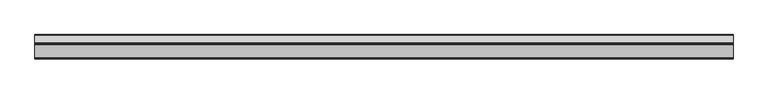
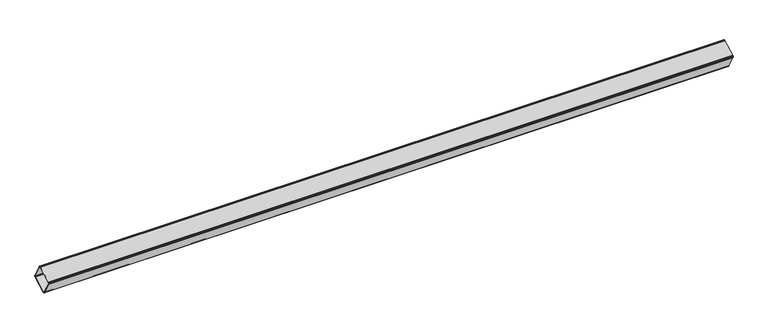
"""IFC4 building model written with IfcOpenShell, lengths in millimetres: beam geometry, Buton 195686 : Buton 195686."""

from ifc_helpers import new_model, si_unit, frame, origin, place, context, project, spatial, polyline, outline, extrude, source, transform, mapped, element, save


def beam_9efd9b80(model_context):
    return source(origin(), model_context, "Body", "SweptSolid", [
        extrude(outline(polyline([(-16297.5277892, 10145.6096056), (-16224.153053, 10186.501513), (-16221.8030118, 10187.3629491), (-16219.3017914, 10187.4560209), (-16216.8942286, 10186.7716177), (-16214.8159926, 10185.3767339), (-16213.2705155, 10183.4079103), (-16172.3786081, 10110.0331741), (-16171.517172, 10107.6831329), (-16171.4241002, 10105.1819125), (-16172.1085034, 10102.7743498), (-16173.5033872, 10100.6961137), (-16175.4722108, 10099.1506366), (-16248.846947, 10058.2587292), (-16251.1969882, 10057.3972931), (-16253.6982086, 10057.3042213), (-16256.1057714, 10057.9886245), (-16258.1840074, 10059.3835083), (-16259.7294845, 10061.3523319), (-16300.6213919, 10134.7270681), (-16301.482828, 10137.0771093), (-16301.5758998, 10139.5783297), (-16300.8914966, 10141.9858925), (-16299.4966128, 10144.0641285), (-16297.5277892, 10145.6096056)]), holes=[polyline([(-16297.1273569, 10136.6743018), (-16256.2354494, 10063.2995656), (-16255.4627109, 10062.3151538), (-16254.4235929, 10061.6177119), (-16253.2198115, 10061.2755103), (-16251.9692013, 10061.3220462), (-16250.7941807, 10061.7527643), (-16177.4194445, 10102.6446717), (-16176.4350327, 10103.4174102), (-16175.7375908, 10104.4565283), (-16175.3953892, 10105.6603096), (-16175.4419251, 10106.9109198), (-16175.8726431, 10108.0859404), (-16216.7645506, 10181.4606766), (-16217.5372891, 10182.4450884), (-16218.5764071, 10183.1425303), (-16219.7801885, 10183.4847319), (-16221.0307987, 10183.438196), (-16222.2058193, 10183.007478), (-16295.5805555, 10142.1155705), (-16296.5649673, 10141.342832), (-16297.2624092, 10140.303714), (-16297.6046108, 10139.0999326), (-16297.5580749, 10137.8493224), (-16297.1273569, 10136.6743018)])]), frame((7679.9999999, 0.0, 0.0), z_axis=(1.0, 0.0, 0.0), x_axis=(0.0, 1.0, 0.0)), (0.0, 0.0, 1.0), 3742.2815708),
    ])


if __name__ == "__main__":
    model = new_model("IFC4")
    model_context = context("Model", 3, world=origin())
    ifc_project = project(units=[si_unit("LENGTHUNIT", "METRE", prefix="MILLI")], contexts=[model_context])
    site = spatial("IfcSite", under=ifc_project)
    building = spatial("IfcBuilding", under=site)
    placement = place(None, origin())
    beam_shape = beam_9efd9b80(model_context)
    element("IfcBeam", 1, ObjectType="Buton 195686 : Buton 195686", at=placement, inside=building, context=model_context, shape_type="MappedRepresentation", body=[
        mapped(beam_shape, transform((0.0, 0.0, 0.0), x_axis=(1.0, 0.0, 0.0), y_axis=(0.0, 1.0, 0.0), z_axis=(0.0, 0.0, 1.0))),
    ])
    save(model, "model.ifc")
